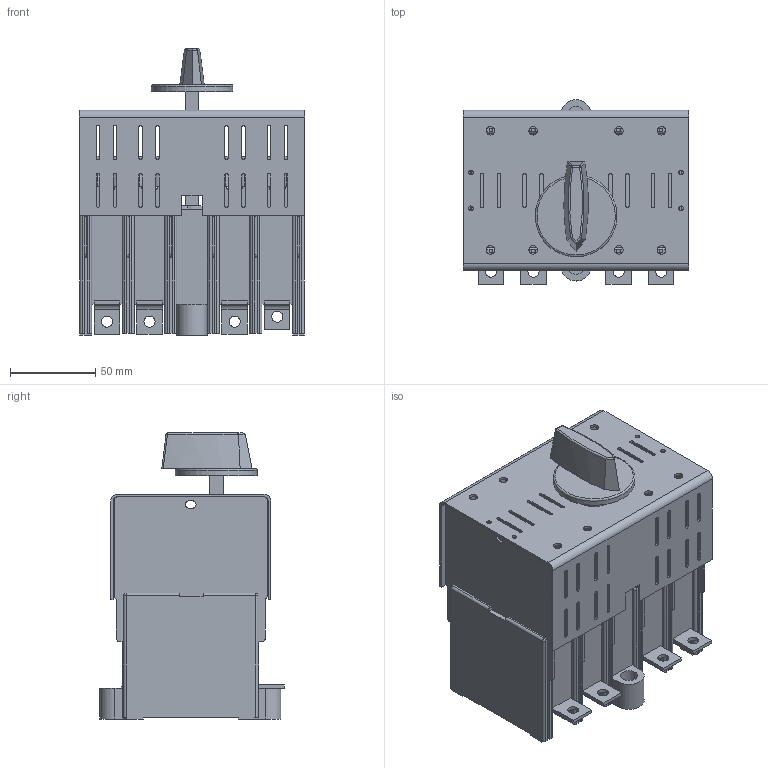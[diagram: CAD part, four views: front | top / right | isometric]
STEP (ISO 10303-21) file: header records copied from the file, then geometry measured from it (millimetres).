
FILE_DESCRIPTION(/* description */ (''),/* implementation_level */ '2;1');
FILE_NAME(/* name */ 'RAB 000 P3 NA-R, P4 A-R.stp',/* time_stamp */ '2021-08-19T09:39:44+02:00',/* author */ (''),/* organization */ (''),/* preprocessor_version */ 'ST-DEVELOPER v18.1',/* originating_system */ 'SIEMENS PLM Software NX 1965',/* authorisation */ '');
FILE_SCHEMA (('AUTOMOTIVE_DESIGN { 1 0 10303 214 3 1 1 1 }'));
Length unit declared in the file: millimetre
Products named in the file (1): RAB 000 P3 NA-R, P4 A-R_stp
Bounding box: 132.5 x 108.51 x 168 mm (x, y, z)
Volume: 751738.1 mm3; surface area: 216500.2 mm2
Topology: 1 solids, 1 shells, 1141 faces, 3231 edges, 2073 vertices
Faces by surface type: plane 741, cylinder 367, sphere 25, bspline 7, torus 1
Full cylindrical faces by diameter (mm): 2.7 x4, 5 x8, 5.8 x2, 6.5 x8, 10 x2, 20 x1, 48 x1
Entity records: 36848 total; most frequent: CARTESIAN_POINT 6953, ORIENTED_EDGE 6332, DIRECTION 6038, EDGE_CURVE 3166, LINE 2318, VECTOR 2318, VERTEX_POINT 2061, AXIS2_PLACEMENT_3D 1860
